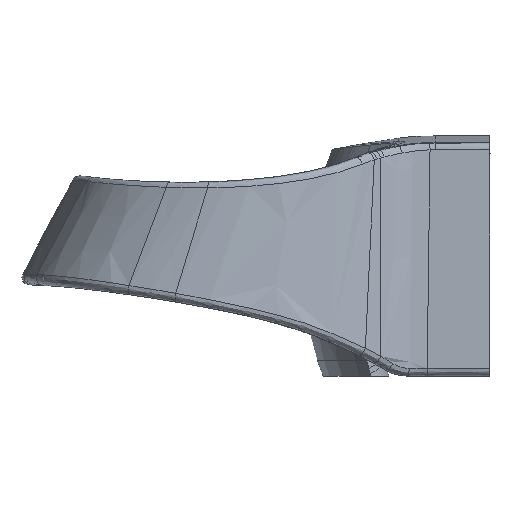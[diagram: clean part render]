
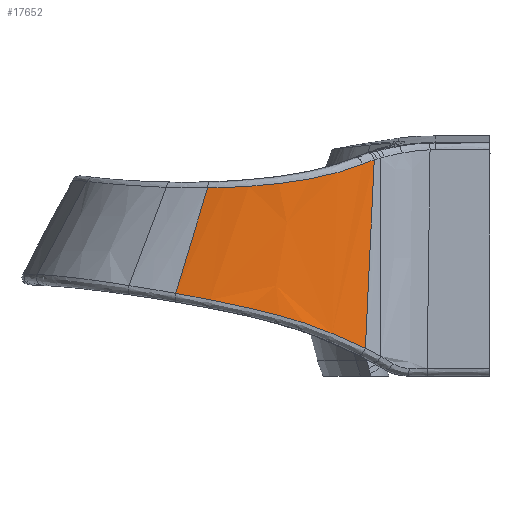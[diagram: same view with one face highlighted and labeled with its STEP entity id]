
A CAD part, left-side view. The second image highlights one B-rep face of the part: STEP entity #17652.
In plain terms, the highlighted free-form (B-spline) face has degree [3, 3] with [5, 4] control points.
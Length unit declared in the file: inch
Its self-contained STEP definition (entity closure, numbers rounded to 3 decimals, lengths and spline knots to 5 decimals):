
#3712=CARTESIAN_POINT('',(-2.19913,1.18731,
0.87061));
#3713=CARTESIAN_POINT('',(-2.21018,1.20596,
0.8631));
#3714=CARTESIAN_POINT('',(-2.23236,1.24511,
0.84792));
#3715=CARTESIAN_POINT('',(-2.26512,1.30891,
0.82529));
#3716=CARTESIAN_POINT('',(-2.29794,1.38016,
0.80248));
#3717=CARTESIAN_POINT('',(-2.33049,1.46037,
0.77969));
#3718=CARTESIAN_POINT('',(-2.36222,1.5514,
0.75713));
#3719=CARTESIAN_POINT('',(-2.39203,1.65492,
0.73523));
#3720=CARTESIAN_POINT('',(-2.4183,1.77322,
0.71442));
#3721=CARTESIAN_POINT('',(-2.43776,1.90302,
0.69589));
#3722=CARTESIAN_POINT('',(-2.44797,2.03724,
0.68064));
#3723=CARTESIAN_POINT('',(-2.44839,2.17305,
0.66873));
#3724=CARTESIAN_POINT('',(-2.43893,2.30701,
0.65986));
#3725=CARTESIAN_POINT('',(-2.42081,2.43291,
0.65392));
#3726=CARTESIAN_POINT('',(-2.39688,2.54379,
0.65066));
#3727=CARTESIAN_POINT('',(-2.38117,2.60013,
0.64982));
#3728=CARTESIAN_POINT('',(-2.37383,2.62465,
0.64956));
#3753=DIRECTION('',(-0.043,0.047,-0.998));
#3754=VECTOR('',#3753,1.75668);
#3755=CARTESIAN_POINT('',(-2.12686,1.07596,
0.91043));
#3756=LINE('',#3755,#3754);
#3762=CARTESIAN_POINT('',(-2.49096,2.92218,
-0.33055));
#3763=CARTESIAN_POINT('',(-2.49971,2.8835,
-0.33747));
#3764=CARTESIAN_POINT('',(-2.51708,2.79751,
-0.35308));
#3765=CARTESIAN_POINT('',(-2.53862,2.63259,
-0.38452));
#3766=CARTESIAN_POINT('',(-2.54744,2.46152,
-0.41918));
#3767=CARTESIAN_POINT('',(-2.54413,2.30041,
-0.45394));
#3768=CARTESIAN_POINT('',(-2.53129,2.15178,
-0.48794));
#3769=CARTESIAN_POINT('',(-2.51175,2.01848,
-0.5206));
#3770=CARTESIAN_POINT('',(-2.48867,1.90271,
-0.55175));
#3771=CARTESIAN_POINT('',(-2.46331,1.79925,
-0.5824));
#3772=CARTESIAN_POINT('',(-2.43585,1.70363,
-0.61377));
#3773=CARTESIAN_POINT('',(-2.40562,1.61096,
-0.64717));
#3774=CARTESIAN_POINT('',(-2.36828,1.50937,
-0.68671));
#3775=CARTESIAN_POINT('',(-2.32296,1.40009,
-0.73194));
#3776=CARTESIAN_POINT('',(-2.26905,1.28412,
-0.78288));
#3777=CARTESIAN_POINT('',(-2.22597,1.20119,
-0.82187));
#3778=CARTESIAN_POINT('',(-2.20258,1.15867,
-0.84267));
#3803=CARTESIAN_POINT('',(-2.49096,2.92218,
-0.33055));
#3817=DIRECTION('',(-0.114,0.289,-0.951));
#3818=VECTOR('',#3817,1.03095);
#3819=CARTESIAN_POINT('',(-2.37383,2.62465,
0.64956));
#3820=LINE('',#3819,#3818);
#4205=CARTESIAN_POINT('',(-2.37383,2.62465,
0.64956));
#4512=CARTESIAN_POINT('',(-2.12686,1.07596,
0.91043));
#4513=CARTESIAN_POINT('',(-2.13553,1.08817,
0.9066));
#4514=CARTESIAN_POINT('',(-2.15245,1.11274,
0.89856));
#4515=CARTESIAN_POINT('',(-2.17654,1.14992,
0.88529));
#4516=CARTESIAN_POINT('',(-2.19174,1.17484,
0.87564));
#4517=CARTESIAN_POINT('',(-2.19913,1.18731,
0.87061));
#7830=VERTEX_POINT('',#4205);
#7885=VERTEX_POINT('',#3803);
#7918=VERTEX_POINT('',#3712);
#7920=VERTEX_POINT('',#4512);
#7934=VERTEX_POINT('',#3778);
#17620=CARTESIAN_POINT('',(-2.55342,3.10779,
-0.87773));
#17621=CARTESIAN_POINT('',(-2.48011,2.92158,
-0.26999));
#17622=CARTESIAN_POINT('',(-2.40679,2.73537,
0.33775));
#17623=CARTESIAN_POINT('',(-2.33348,2.54917,
0.94549));
#17624=CARTESIAN_POINT('',(-2.60469,2.77502,
-0.87773));
#17625=CARTESIAN_POINT('',(-2.54304,2.61823,
-0.26999));
#17626=CARTESIAN_POINT('',(-2.48139,2.46144,
0.33775));
#17627=CARTESIAN_POINT('',(-2.41974,2.30465,
0.94549));
#17628=CARTESIAN_POINT('',(-2.59569,2.08584,
-0.87773));
#17629=CARTESIAN_POINT('',(-2.55421,1.98104,
-0.26999));
#17630=CARTESIAN_POINT('',(-2.51272,1.87624,
0.33775));
#17631=CARTESIAN_POINT('',(-2.47123,1.77144,
0.94549));
#17632=CARTESIAN_POINT('',(-2.36044,1.43704,
-0.87773));
#17633=CARTESIAN_POINT('',(-2.33021,1.38241,
-0.26999));
#17634=CARTESIAN_POINT('',(-2.29997,1.32779,
0.33775));
#17635=CARTESIAN_POINT('',(-2.26973,1.27317,
0.94549));
#17636=CARTESIAN_POINT('',(-2.19444,1.14309,
-0.87773));
#17637=CARTESIAN_POINT('',(-2.16844,1.11603,
-0.26999));
#17638=CARTESIAN_POINT('',(-2.14244,1.08897,
0.33775));
#17639=CARTESIAN_POINT('',(-2.11644,1.0619,
0.94549));
#17640=B_SPLINE_SURFACE_WITH_KNOTS('',3,3,((#17620,#17621,#17622,#17623),
(#17624,#17625,#17626,#17627),(#17628,#17629,#17630,#17631),(#17632,#17633,
#17634,#17635),(#17636,#17637,#17638,#17639)),.UNSPECIFIED.,.F.,.F.,.F.,(4,1,4),
(4,4),(0.75615,0.82926,0.90238),
(0.20742,0.81516),.UNSPECIFIED.);
#17642=ORIENTED_EDGE('',*,*,#17641,.F.);
#17644=ORIENTED_EDGE('',*,*,#17643,.F.);
#17645=ORIENTED_EDGE('',*,*,#17610,.F.);
#17647=ORIENTED_EDGE('',*,*,#17646,.F.);
#17649=ORIENTED_EDGE('',*,*,#17648,.T.);
#17650=EDGE_LOOP('',(#17642,#17644,#17645,#17647,#17649));
#17651=FACE_OUTER_BOUND('',#17650,.F.);
#17652=ADVANCED_FACE('',(#17651),#17640,.T.);
#3729=B_SPLINE_CURVE_WITH_KNOTS('',3,(#3712,#3713,#3714,#3715,#3716,#3717,#3718,
#3719,#3720,#3721,#3722,#3723,#3724,#3725,#3726,#3727,#3728),.UNSPECIFIED.,.F.,
.F.,(4,1,1,1,1,1,1,1,1,1,1,1,1,1,4),(0.,0.07143,0.14286,
0.21429,0.28571,0.35714,0.42857,0.5,
0.57143,0.64286,0.71429,0.78571,
0.85714,0.92857,1.),.UNSPECIFIED.);
#3779=B_SPLINE_CURVE_WITH_KNOTS('',3,(#3762,#3763,#3764,#3765,#3766,#3767,#3768,
#3769,#3770,#3771,#3772,#3773,#3774,#3775,#3776,#3777,#3778),.UNSPECIFIED.,.F.,
.F.,(4,1,1,1,1,1,1,1,1,1,1,1,1,1,4),(0.,0.07143,0.14286,
0.21429,0.28571,0.35714,0.42857,0.5,
0.57143,0.64286,0.71429,0.78571,
0.85714,0.92857,1.),.UNSPECIFIED.);
#4518=B_SPLINE_CURVE_WITH_KNOTS('',3,(#4512,#4513,#4514,#4515,#4516,#4517),
.UNSPECIFIED.,.F.,.F.,(4,1,1,4),(0.,0.33333,0.66667,1.),
.UNSPECIFIED.);
#17610=EDGE_CURVE('',#7918,#7830,#3729,.T.);
#17641=EDGE_CURVE('',#7885,#7934,#3779,.T.);
#17643=EDGE_CURVE('',#7830,#7885,#3820,.T.);
#17646=EDGE_CURVE('',#7920,#7918,#4518,.T.);
#17648=EDGE_CURVE('',#7920,#7934,#3756,.T.);
